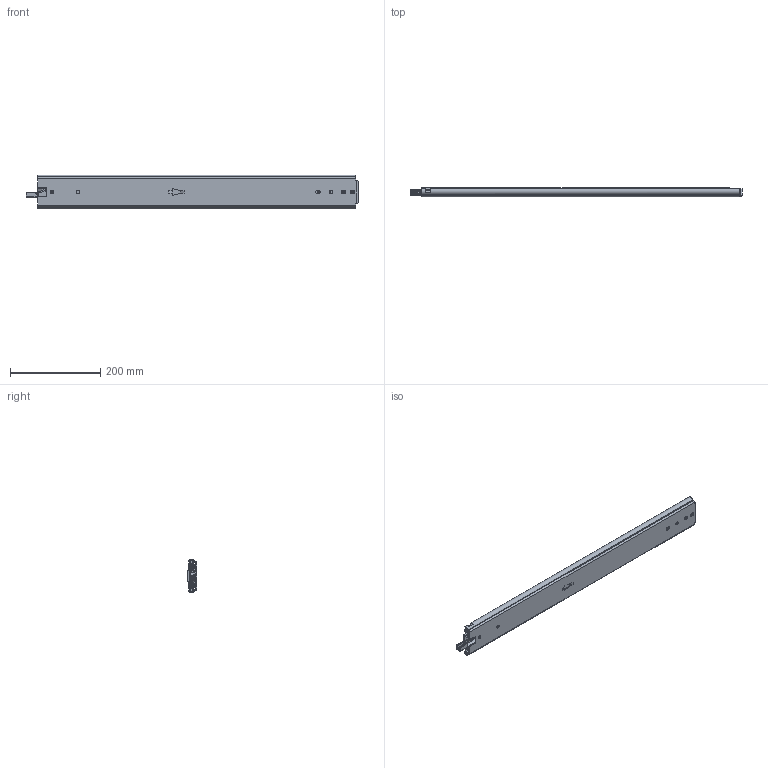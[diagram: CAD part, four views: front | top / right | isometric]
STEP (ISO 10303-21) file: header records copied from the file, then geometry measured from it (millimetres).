
FILE_DESCRIPTION((''),'2;1');
FILE_NAME('DCL2307619-711-CLOSE_ASM_ASM','2023-05-10T',('jishu015'),(''),'PRO/ENGINEER BY PARAMETRIC TECHNOLOGY CORPORATION, 2010280','PRO/ENGINEER BY PARAMETRIC TECHNOLOGY CORPORATION, 2010280','');
FILE_SCHEMA(('CONFIG_CONTROL_DESIGN'));
Length unit declared in the file: millimetre
Products named in the file (32): PRT0017; PRT0018; ASM0005_ASM; PRT0019; PRT0020; ASM0006_ASM; PRT0021; PRT0022; PRT0023; PRT0024; PRT0025; PRT0026; PRT0027; PRT0028; ASM0008_ASM; ASM0007_ASM; PRT0029; PRT0030; PRT0031; PRT0032; PRT0033; ASM0010_ASM; PRT0034; PRT0035; PRT0036; PRT0037; PRT0038; PRT0039; PRT0040; ASM0009_ASM; ASM0004_ASM; DCL2307619-711-CLOSE_ASM_ASM
Assembly tree (67 placements, depth 5):
  DCL2307619-711-CLOSE_ASM_ASM
    ASM0004_ASM
      ASM0005_ASM
        PRT0017
        PRT0018  x2
      ASM0006_ASM  x2
        PRT0019
        PRT0020
      ASM0007_ASM
        PRT0021
        PRT0022
        PRT0023
        PRT0024
        PRT0025
        PRT0026
        ASM0008_ASM
          PRT0027
          PRT0028  x24
      ASM0009_ASM
        PRT0029
        PRT0030
        PRT0031
        ASM0010_ASM
          PRT0032
          PRT0033
        PRT0034
        PRT0035
        PRT0036
        PRT0037
        PRT0038
        PRT0039
        PRT0040
Bounding box: 737.12 x 20.7 x 75.29 mm (x, y, z)
Volume: 466850.1 mm3; surface area: 449421.1 mm2
Topology: 72 solids, 72 shells, 2011 faces, 6307 edges, 4119 vertices
Faces by surface type: plane 968, cylinder 711, sphere 175, bspline 89, cone 28, extrusion 24, torus 16
Entity records: 70475 total; most frequent: CARTESIAN_POINT 22035, ORIENTED_EDGE 10694, DIRECTION 9524, EDGE_CURVE 5347, VERTEX_POINT 3578, AXIS2_PLACEMENT_3D 3348, VECTOR 2828, LINE 2804
